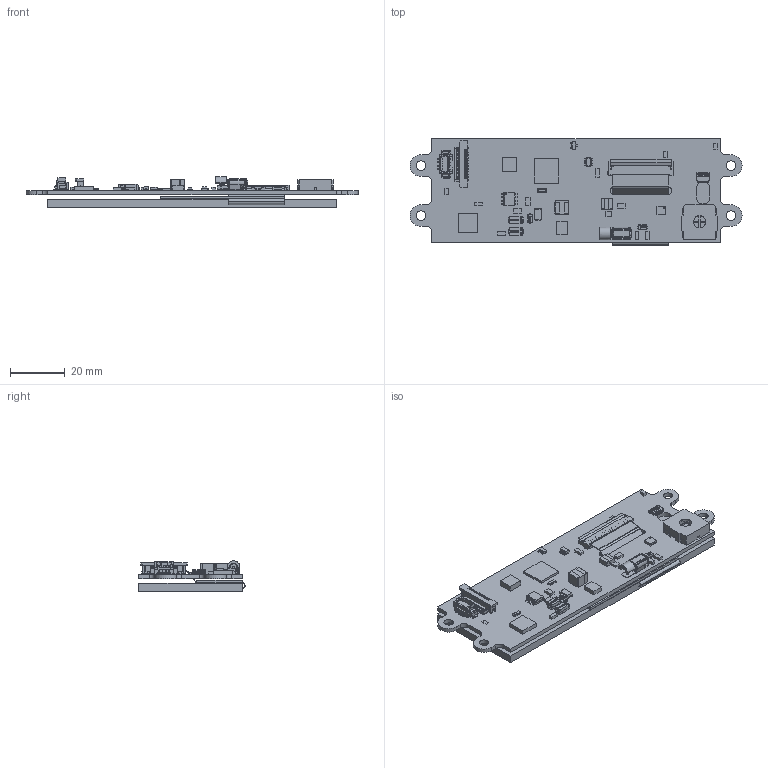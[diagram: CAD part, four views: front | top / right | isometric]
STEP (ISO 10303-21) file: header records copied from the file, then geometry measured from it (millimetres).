
FILE_DESCRIPTION (( 'STEP AP214' ), '1' );
FILE_NAME ('EVE3x-38A-TPN RevA.STEP', '2026-04-29T18:30:31', ( '' ), ( '' ), 'SwSTEP 2.0', 'SolidWorks 2021', '' );
FILE_SCHEMA (( 'AUTOMOTIVE_DESIGN' ));
Length unit declared in the file: millimetre
Products named in the file (5): EVE3x-38A-TPN RevA; EVE3x-38A PCB R1.0.x; EVE3x-38A R1.0.x; MOPTFT480116-38A; EVE3x-38G PCB R1.0.0
Assembly tree (4 placements, depth 3):
  EVE3x-38A-TPN RevA
    EVE3x-38A R1.0.x
      EVE3x-38G PCB R1.0.0
      EVE3x-38A PCB R1.0.x
    MOPTFT480116-38A
Bounding box: 121.5 x 38.85 x 11.13 mm (x, y, z)
Volume: 18927.7 mm3; surface area: 22999.7 mm2
Topology: 4 solids, 267 shells, 2310 faces, 11999 edges, 9797 vertices
Faces by surface type: plane 1848, bspline 268, cylinder 188, sphere 5, torus 1
Entity records: 146941 total; most frequent: CARTESIAN_POINT 37502, ORIENTED_EDGE 16232, DIRECTION 16113, EDGE_CURVE 11993, VERTEX_POINT 9797, VECTOR 9503, LINE 9503, AXIS2_PLACEMENT_3D 3305
